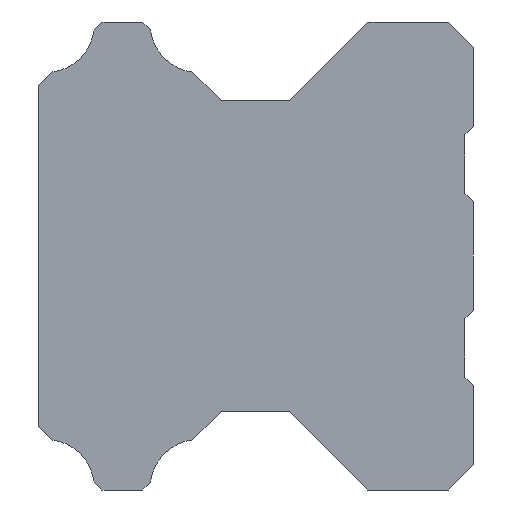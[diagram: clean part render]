
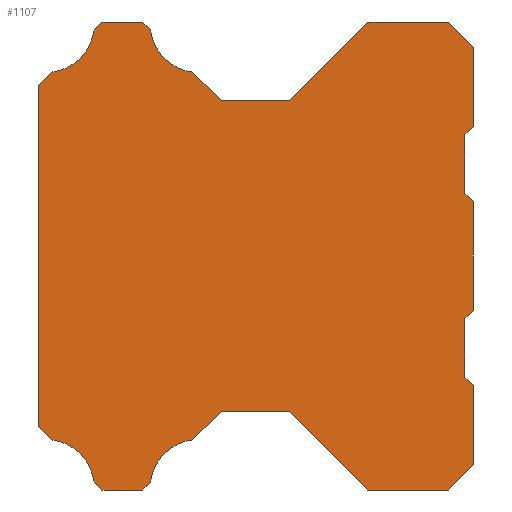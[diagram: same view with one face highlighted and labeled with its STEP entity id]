
A CAD part, left-side view. The second image highlights one B-rep face of the part: STEP entity #1107.
In plain terms, the highlighted planar face has unit normal (-1, 0, 0).
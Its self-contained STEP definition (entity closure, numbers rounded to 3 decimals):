
#48=CIRCLE('',#1194,2.89);
#50=CIRCLE('',#1200,2.89);
#56=CIRCLE('',#1210,2.89);
#58=CIRCLE('',#1216,2.89);
#87=LINE('',#1657,#191);
#89=LINE('',#1663,#193);
#91=LINE('',#1669,#195);
#93=LINE('',#1673,#197);
#97=LINE('',#1682,#201);
#100=LINE('',#1688,#204);
#103=LINE('',#1694,#207);
#107=LINE('',#1704,#211);
#109=LINE('',#1712,#213);
#112=LINE('',#1720,#216);
#115=LINE('',#1726,#219);
#118=LINE('',#1732,#222);
#121=LINE('',#1738,#225);
#124=LINE('',#1744,#228);
#127=LINE('',#1750,#231);
#130=LINE('',#1756,#234);
#134=LINE('',#1768,#238);
#137=LINE('',#1774,#241);
#140=LINE('',#1780,#244);
#144=LINE('',#1792,#248);
#147=LINE('',#1806,#251);
#150=LINE('',#1812,#254);
#154=LINE('',#1824,#258);
#157=LINE('',#1830,#261);
#160=LINE('',#1836,#264);
#164=LINE('',#1848,#268);
#167=LINE('',#1854,#271);
#170=LINE('',#1860,#274);
#191=VECTOR('',#1330,1000.);
#193=VECTOR('',#1336,1000.);
#195=VECTOR('',#1342,1000.);
#197=VECTOR('',#1346,1000.);
#201=VECTOR('',#1352,1000.);
#204=VECTOR('',#1357,1000.);
#207=VECTOR('',#1362,1000.);
#211=VECTOR('',#1374,1000.);
#213=VECTOR('',#1388,1000.);
#216=VECTOR('',#1397,1000.);
#219=VECTOR('',#1402,1000.);
#222=VECTOR('',#1407,1000.);
#225=VECTOR('',#1412,1000.);
#228=VECTOR('',#1417,1000.);
#231=VECTOR('',#1422,1000.);
#234=VECTOR('',#1427,1000.);
#238=VECTOR('',#1439,1000.);
#241=VECTOR('',#1444,1000.);
#244=VECTOR('',#1449,1000.);
#248=VECTOR('',#1461,1000.);
#251=VECTOR('',#1474,1000.);
#254=VECTOR('',#1479,1000.);
#258=VECTOR('',#1491,1000.);
#261=VECTOR('',#1496,1000.);
#264=VECTOR('',#1501,1000.);
#268=VECTOR('',#1513,1000.);
#271=VECTOR('',#1518,1000.);
#274=VECTOR('',#1523,1000.);
#504=ORIENTED_EDGE('',*,*,#636,.F.);
#505=ORIENTED_EDGE('',*,*,#734,.F.);
#506=ORIENTED_EDGE('',*,*,#731,.F.);
#507=ORIENTED_EDGE('',*,*,#728,.F.);
#508=ORIENTED_EDGE('',*,*,#725,.T.);
#509=ORIENTED_EDGE('',*,*,#722,.F.);
#510=ORIENTED_EDGE('',*,*,#719,.F.);
#511=ORIENTED_EDGE('',*,*,#716,.F.);
#512=ORIENTED_EDGE('',*,*,#713,.T.);
#513=ORIENTED_EDGE('',*,*,#710,.F.);
#514=ORIENTED_EDGE('',*,*,#707,.F.);
#515=ORIENTED_EDGE('',*,*,#700,.F.);
#516=ORIENTED_EDGE('',*,*,#697,.T.);
#517=ORIENTED_EDGE('',*,*,#694,.F.);
#518=ORIENTED_EDGE('',*,*,#691,.F.);
#519=ORIENTED_EDGE('',*,*,#688,.F.);
#520=ORIENTED_EDGE('',*,*,#685,.T.);
#521=ORIENTED_EDGE('',*,*,#682,.F.);
#522=ORIENTED_EDGE('',*,*,#679,.F.);
#523=ORIENTED_EDGE('',*,*,#676,.F.);
#524=ORIENTED_EDGE('',*,*,#673,.F.);
#525=ORIENTED_EDGE('',*,*,#670,.F.);
#526=ORIENTED_EDGE('',*,*,#667,.F.);
#527=ORIENTED_EDGE('',*,*,#664,.F.);
#528=ORIENTED_EDGE('',*,*,#659,.F.);
#529=ORIENTED_EDGE('',*,*,#634,.F.);
#530=ORIENTED_EDGE('',*,*,#631,.F.);
#531=ORIENTED_EDGE('',*,*,#628,.F.);
#532=ORIENTED_EDGE('',*,*,#653,.F.);
#533=ORIENTED_EDGE('',*,*,#646,.F.);
#534=ORIENTED_EDGE('',*,*,#643,.F.);
#535=ORIENTED_EDGE('',*,*,#640,.F.);
#628=EDGE_CURVE('',#778,#779,#87,.T.);
#631=EDGE_CURVE('',#779,#781,#89,.T.);
#634=EDGE_CURVE('',#781,#783,#91,.T.);
#636=EDGE_CURVE('',#784,#785,#93,.T.);
#640=EDGE_CURVE('',#785,#788,#97,.T.);
#643=EDGE_CURVE('',#788,#790,#100,.T.);
#646=EDGE_CURVE('',#790,#792,#103,.T.);
#653=EDGE_CURVE('',#792,#778,#107,.T.);
#659=EDGE_CURVE('',#783,#794,#109,.T.);
#664=EDGE_CURVE('',#794,#796,#112,.T.);
#667=EDGE_CURVE('',#796,#798,#115,.T.);
#670=EDGE_CURVE('',#798,#800,#118,.T.);
#673=EDGE_CURVE('',#800,#802,#121,.T.);
#676=EDGE_CURVE('',#802,#804,#124,.T.);
#679=EDGE_CURVE('',#804,#806,#127,.T.);
#682=EDGE_CURVE('',#806,#808,#130,.T.);
#685=EDGE_CURVE('',#810,#808,#48,.T.);
#688=EDGE_CURVE('',#810,#812,#134,.T.);
#691=EDGE_CURVE('',#812,#814,#137,.T.);
#694=EDGE_CURVE('',#814,#816,#140,.T.);
#697=EDGE_CURVE('',#818,#816,#50,.T.);
#700=EDGE_CURVE('',#818,#820,#144,.T.);
#707=EDGE_CURVE('',#820,#826,#147,.T.);
#710=EDGE_CURVE('',#826,#828,#150,.T.);
#713=EDGE_CURVE('',#830,#828,#56,.T.);
#716=EDGE_CURVE('',#830,#832,#154,.T.);
#719=EDGE_CURVE('',#832,#834,#157,.T.);
#722=EDGE_CURVE('',#834,#836,#160,.T.);
#725=EDGE_CURVE('',#838,#836,#58,.T.);
#728=EDGE_CURVE('',#838,#840,#164,.T.);
#731=EDGE_CURVE('',#840,#842,#167,.T.);
#734=EDGE_CURVE('',#842,#784,#170,.T.);
#778=VERTEX_POINT('',#1656);
#779=VERTEX_POINT('',#1658);
#781=VERTEX_POINT('',#1664);
#783=VERTEX_POINT('',#1670);
#784=VERTEX_POINT('',#1674);
#785=VERTEX_POINT('',#1675);
#788=VERTEX_POINT('',#1683);
#790=VERTEX_POINT('',#1689);
#792=VERTEX_POINT('',#1695);
#794=VERTEX_POINT('',#1713);
#796=VERTEX_POINT('',#1721);
#798=VERTEX_POINT('',#1727);
#800=VERTEX_POINT('',#1733);
#802=VERTEX_POINT('',#1739);
#804=VERTEX_POINT('',#1745);
#806=VERTEX_POINT('',#1751);
#808=VERTEX_POINT('',#1757);
#810=VERTEX_POINT('',#1763);
#812=VERTEX_POINT('',#1769);
#814=VERTEX_POINT('',#1775);
#816=VERTEX_POINT('',#1781);
#818=VERTEX_POINT('',#1787);
#820=VERTEX_POINT('',#1793);
#826=VERTEX_POINT('',#1807);
#828=VERTEX_POINT('',#1813);
#830=VERTEX_POINT('',#1819);
#832=VERTEX_POINT('',#1825);
#834=VERTEX_POINT('',#1831);
#836=VERTEX_POINT('',#1837);
#838=VERTEX_POINT('',#1843);
#840=VERTEX_POINT('',#1849);
#842=VERTEX_POINT('',#1855);
#917=EDGE_LOOP('',(#504,#505,#506,#507,#508,#509,#510,#511,#512,#513,#514,
#515,#516,#517,#518,#519,#520,#521,#522,#523,#524,#525,#526,#527,#528,#529,
#530,#531,#532,#533,#534,#535));
#991=FACE_BOUND('',#917,.T.);
#1057=PLANE('',#1222);
#1107=ADVANCED_FACE('',(#991),#1057,.F.);
#1194=AXIS2_PLACEMENT_3D('',#1762,#1432,#1433);
#1200=AXIS2_PLACEMENT_3D('',#1786,#1454,#1455);
#1210=AXIS2_PLACEMENT_3D('',#1818,#1484,#1485);
#1216=AXIS2_PLACEMENT_3D('',#1842,#1506,#1507);
#1222=AXIS2_PLACEMENT_3D('',#1863,#1527,#1528);
#1330=DIRECTION('',(0.,-0.707,-0.707));
#1336=DIRECTION('',(0.,0.,-1.));
#1342=DIRECTION('',(0.,0.707,-0.707));
#1346=DIRECTION('',(0.,-1.,0.));
#1352=DIRECTION('',(0.,-0.707,-0.707));
#1357=DIRECTION('',(0.,0.,-1.));
#1362=DIRECTION('',(0.,0.707,-0.707));
#1374=DIRECTION('',(0.,0.,-1.));
#1388=DIRECTION('',(0.,0.,-1.));
#1397=DIRECTION('',(0.,-0.707,-0.707));
#1402=DIRECTION('',(0.,0.,-1.));
#1407=DIRECTION('',(0.,0.707,-0.707));
#1412=DIRECTION('',(0.,1.,0.));
#1417=DIRECTION('',(0.,0.707,0.707));
#1422=DIRECTION('',(0.,1.,0.));
#1427=DIRECTION('',(0.,0.707,-0.707));
#1432=DIRECTION('',(1.,0.,0.));
#1433=DIRECTION('',(0.,0.,-1.));
#1439=DIRECTION('',(0.,0.707,-0.707));
#1444=DIRECTION('',(0.,1.,0.));
#1449=DIRECTION('',(0.,0.707,0.707));
#1454=DIRECTION('',(1.,0.,0.));
#1455=DIRECTION('',(0.,0.,-1.));
#1461=DIRECTION('',(0.,0.707,0.707));
#1474=DIRECTION('',(0.,0.,1.));
#1479=DIRECTION('',(0.,-0.707,0.707));
#1484=DIRECTION('',(1.,0.,0.));
#1485=DIRECTION('',(0.,0.,-1.));
#1491=DIRECTION('',(0.,-0.707,0.707));
#1496=DIRECTION('',(0.,-1.,0.));
#1501=DIRECTION('',(0.,-0.707,-0.707));
#1506=DIRECTION('',(1.,0.,0.));
#1507=DIRECTION('',(0.,0.,-1.));
#1513=DIRECTION('',(0.,-0.707,-0.707));
#1518=DIRECTION('',(0.,-1.,0.));
#1523=DIRECTION('',(0.,-0.707,0.707));
#1527=DIRECTION('',(1.,0.,0.));
#1528=DIRECTION('',(0.,0.,-1.));
#1656=CARTESIAN_POINT('',(-20.,0.5,3.75));
#1657=CARTESIAN_POINT('',(-20.,0.5,3.75));
#1658=CARTESIAN_POINT('',(-20.,0.,3.25));
#1663=CARTESIAN_POINT('',(-20.,0.,3.25));
#1664=CARTESIAN_POINT('',(-20.,0.,-3.25));
#1669=CARTESIAN_POINT('',(-20.,0.,-3.25));
#1670=CARTESIAN_POINT('',(-20.,0.5,-3.75));
#1673=CARTESIAN_POINT('',(-20.,6.3,14.));
#1674=CARTESIAN_POINT('',(-20.,6.3,14.));
#1675=CARTESIAN_POINT('',(-20.,1.5,14.));
#1682=CARTESIAN_POINT('',(-20.,1.5,14.));
#1683=CARTESIAN_POINT('',(-20.,0.,12.5));
#1688=CARTESIAN_POINT('',(-20.,0.,12.5));
#1689=CARTESIAN_POINT('',(-20.,0.,7.75));
#1694=CARTESIAN_POINT('',(-20.,0.,7.75));
#1695=CARTESIAN_POINT('',(-20.,0.5,7.25));
#1704=CARTESIAN_POINT('',(-20.,0.5,7.25));
#1712=CARTESIAN_POINT('',(-20.,0.5,-3.75));
#1713=CARTESIAN_POINT('',(-20.,0.5,-7.25));
#1720=CARTESIAN_POINT('',(-20.,0.5,-7.25));
#1721=CARTESIAN_POINT('',(-20.,0.,-7.75));
#1726=CARTESIAN_POINT('',(-20.,0.,-7.75));
#1727=CARTESIAN_POINT('',(-20.,0.,-12.5));
#1732=CARTESIAN_POINT('',(-20.,0.,-12.5));
#1733=CARTESIAN_POINT('',(-20.,1.5,-14.));
#1738=CARTESIAN_POINT('',(-20.,1.5,-14.));
#1739=CARTESIAN_POINT('',(-20.,6.3,-14.));
#1744=CARTESIAN_POINT('',(-20.,6.3,-14.));
#1745=CARTESIAN_POINT('',(-20.,11.,-9.3));
#1750=CARTESIAN_POINT('',(-20.,11.,-9.3));
#1751=CARTESIAN_POINT('',(-20.,15.079,-9.3));
#1756=CARTESIAN_POINT('',(-20.,15.079,-9.3));
#1757=CARTESIAN_POINT('',(-20.,16.779,-11.));
#1762=CARTESIAN_POINT('',(-20.,16.44,-13.87));
#1763=CARTESIAN_POINT('',(-20.,19.31,-13.531));
#1768=CARTESIAN_POINT('',(-20.,19.31,-13.531));
#1769=CARTESIAN_POINT('',(-20.,19.779,-14.));
#1774=CARTESIAN_POINT('',(-20.,19.779,-14.));
#1775=CARTESIAN_POINT('',(-20.,22.215,-14.));
#1780=CARTESIAN_POINT('',(-20.,22.215,-14.));
#1781=CARTESIAN_POINT('',(-20.,22.69,-13.525));
#1786=CARTESIAN_POINT('',(-20.,25.56,-13.87));
#1787=CARTESIAN_POINT('',(-20.,25.215,-11.));
#1792=CARTESIAN_POINT('',(-20.,25.215,-11.));
#1793=CARTESIAN_POINT('',(-20.,26.,-10.215));
#1806=CARTESIAN_POINT('',(-20.,26.,-10.215));
#1807=CARTESIAN_POINT('',(-20.,26.,10.215));
#1812=CARTESIAN_POINT('',(-20.,26.,10.215));
#1813=CARTESIAN_POINT('',(-20.,25.215,11.));
#1818=CARTESIAN_POINT('',(-20.,25.56,13.87));
#1819=CARTESIAN_POINT('',(-20.,22.69,13.525));
#1824=CARTESIAN_POINT('',(-20.,22.69,13.525));
#1825=CARTESIAN_POINT('',(-20.,22.215,14.));
#1830=CARTESIAN_POINT('',(-20.,22.215,14.));
#1831=CARTESIAN_POINT('',(-20.,19.779,14.));
#1836=CARTESIAN_POINT('',(-20.,19.779,14.));
#1837=CARTESIAN_POINT('',(-20.,19.31,13.531));
#1842=CARTESIAN_POINT('',(-20.,16.44,13.87));
#1843=CARTESIAN_POINT('',(-20.,16.779,11.));
#1848=CARTESIAN_POINT('',(-20.,16.779,11.));
#1849=CARTESIAN_POINT('',(-20.,15.079,9.3));
#1854=CARTESIAN_POINT('',(-20.,15.079,9.3));
#1855=CARTESIAN_POINT('',(-20.,11.,9.3));
#1860=CARTESIAN_POINT('',(-20.,11.,9.3));
#1863=CARTESIAN_POINT('',(-20.,16.44,-13.87));
